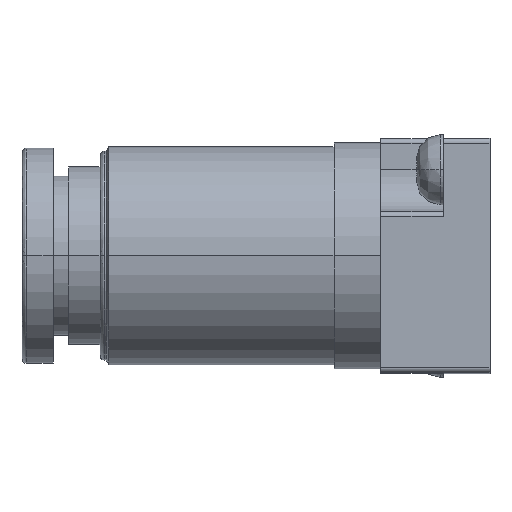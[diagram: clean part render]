
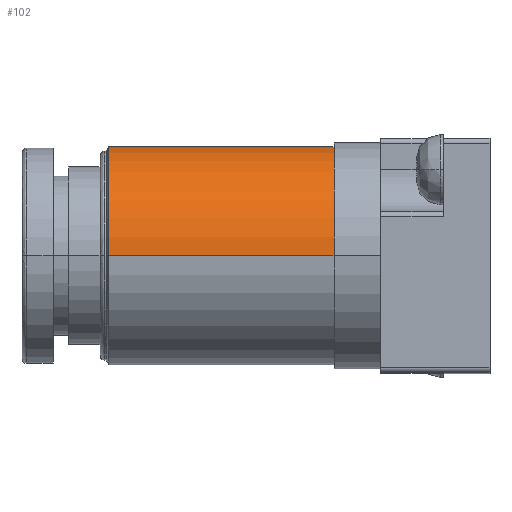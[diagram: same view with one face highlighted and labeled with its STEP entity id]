
A CAD part, top view. The second image highlights one B-rep face of the part: STEP entity #102.
In plain terms, the highlighted cylindrical face has radius 7 mm (diameter 14 mm), a partial arc.
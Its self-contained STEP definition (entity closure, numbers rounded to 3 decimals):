
#102=ADVANCED_FACE('',(#739),#738,.T.);
#738=CYLINDRICAL_SURFACE('',#1283,7.);
#739=FACE_OUTER_BOUND('',#1284,.T.);
#1280=CARTESIAN_POINT('',(-10.,-7.5,30.55));
#1281=DIRECTION('',(1.,0.,0.));
#1282=DIRECTION('',(0.,0.,-1.));
#1283=AXIS2_PLACEMENT_3D('',#1280,#1281,#1282);
#1284=EDGE_LOOP('',(#1696,#1697,#1698,#1699));
#1696=ORIENTED_EDGE('',*,*,#1848,.T.);
#1697=ORIENTED_EDGE('',*,*,#1896,.F.);
#1698=ORIENTED_EDGE('',*,*,#1897,.F.);
#1699=ORIENTED_EDGE('',*,*,#1898,.T.);
#1848=EDGE_CURVE('',#2659,#2658,#2666,.T.);
#1896=EDGE_CURVE('',#2978,#2658,#2979,.T.);
#1897=EDGE_CURVE('',#2985,#2978,#2986,.T.);
#1898=EDGE_CURVE('',#2985,#2659,#2992,.T.);
#2658=VERTEX_POINT('',#3540);
#2659=VERTEX_POINT('',#3541);
#2666=CIRCLE('',#3549,7.);
#2978=VERTEX_POINT('',#3737);
#2979=(BOUNDED_CURVE() B_SPLINE_CURVE(1,(#3738,#3739),.UNSPECIFIED.,.F.,.F.) B_SPLINE_CURVE_WITH_KNOTS((2,2),(0.083,0.917),.UNSPECIFIED.) CURVE() GEOMETRIC_REPRESENTATION_ITEM() RATIONAL_B_SPLINE_CURVE((1.,1.)) REPRESENTATION_ITEM('') );
#2985=VERTEX_POINT('',#3740);
#2986=CIRCLE('',#3744,7.);
#2992=(BOUNDED_CURVE() B_SPLINE_CURVE(1,(#3745,#3746),.UNSPECIFIED.,.F.,.F.) B_SPLINE_CURVE_WITH_KNOTS((2,2),(0.083,0.917),.UNSPECIFIED.) CURVE() GEOMETRIC_REPRESENTATION_ITEM() RATIONAL_B_SPLINE_CURVE((0.75,0.75)) REPRESENTATION_ITEM('') );
#3540=CARTESIAN_POINT('',(-10.,-7.5,23.55));
#3541=CARTESIAN_POINT('',(-10.,-7.5,37.55));
#3546=CARTESIAN_POINT('',(-10.,-7.5,30.55));
#3547=DIRECTION('',(-1.,0.,0.));
#3548=DIRECTION('',(0.,0.,1.));
#3549=AXIS2_PLACEMENT_3D('',#3546,#3547,#3548);
#3737=CARTESIAN_POINT('',(-24.427,-7.5,23.55));
#3738=CARTESIAN_POINT('',(-24.427,-7.5,23.55));
#3739=CARTESIAN_POINT('',(-10.,-7.5,23.55));
#3740=CARTESIAN_POINT('',(-24.427,-7.5,37.55));
#3741=CARTESIAN_POINT('',(-24.427,-7.5,30.55));
#3742=DIRECTION('',(-1.,0.,0.));
#3743=DIRECTION('',(0.,0.,1.));
#3744=AXIS2_PLACEMENT_3D('',#3741,#3742,#3743);
#3745=CARTESIAN_POINT('',(-24.427,-7.5,37.55));
#3746=CARTESIAN_POINT('',(-10.,-7.5,37.55));
